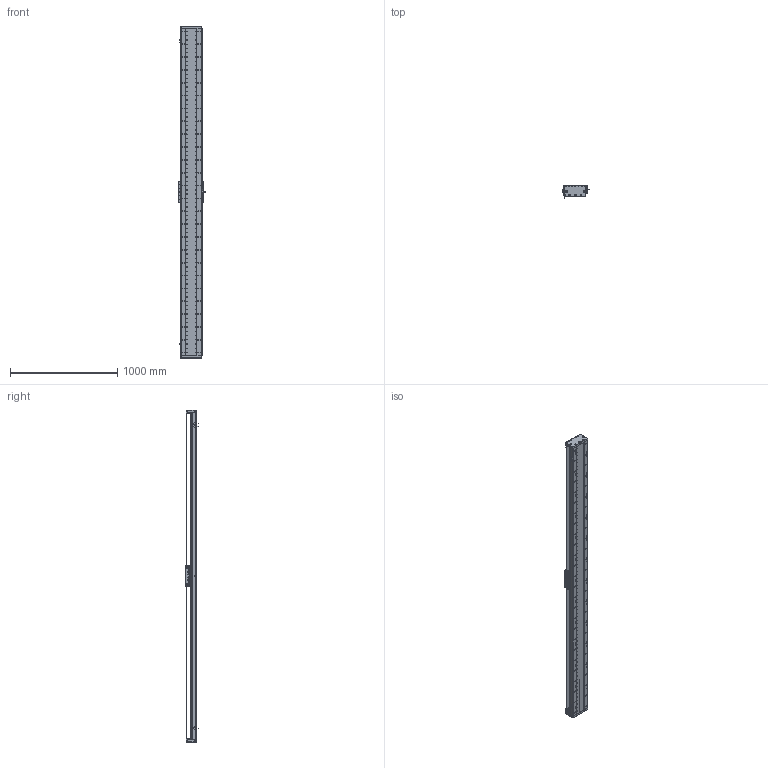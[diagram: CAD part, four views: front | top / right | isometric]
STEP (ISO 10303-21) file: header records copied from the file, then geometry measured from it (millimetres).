
FILE_DESCRIPTION (( 'STEP AP203' ), '1' );
FILE_NAME ('DA-C195-C2-T2820-C010-0.2 眻盄萇儂.STEP', '2025-08-15T01:15:15', ( '' ), ( '' ), 'SwSTEP 2.0', 'SolidWorks 2019', '' );
FILE_SCHEMA (( 'CONFIG_CONTROL_DESIGN' ));
Length unit declared in the file: millimetre
Products named in the file (15): LMT黍杅芛; DA-C195-GD-DB-H-00 傷啣; IU-CU195-L-00 菁釱(L3060); DA195詩湍菜輸; IU-CU195-L 菁釱絳寢; DA-C195-C2-T2820-C010-0.2 眻盄萇儂; DA195詩湍裔啣; MS200 棠掑喜S315-T1740; DA165-GYP-00 光电感应片(默认); DA195詩湍嶺輸; PM-T45ㄗ侂狟ㄘ; DA95-HXJ-00 遣喳砎蝶; CU195-C2賑輸-俋楷; DA195詩湍郪璃; 葩璃 DA95-GT-T-00
Assembly tree (29 placements, depth 3):
  DA-C195-C2-T2820-C010-0.2 眻盄萇儂
    DA195詩湍郪璃
      DA195詩湍菜輸  x2
      DA195詩湍裔啣
      DA195詩湍嶺輸  x2
      DA95-HXJ-00 遣喳砎蝶  x8
      DA-C195-GD-DB-H-00 傷啣  x2
    IU-CU195-L 菁釱絳寢
      IU-CU195-L-00 菁釱(L3060)
      葩璃 DA95-GT-T-00  x4
    LMT黍杅芛
    MS200 棠掑喜S315-T1740
    PM-T45ㄗ侂狟ㄘ  x3
    DA165-GYP-00 光电感应片(默认)
    CU195-C2賑輸-俋楷
Bounding box: 248 x 115.45 x 3100 mm (x, y, z)
Volume: 17462316.7 mm3; surface area: 5197691.8 mm2
Topology: 66 solids, 130 shells, 4594 faces, 13051 edges, 8247 vertices
Faces by surface type: cylinder 2567, plane 1409, cone 530, torus 52, sphere 36
Entity records: 151309 total; most frequent: CARTESIAN_POINT 42434, ORIENTED_EDGE 22986, DIRECTION 21776, EDGE_CURVE 11493, AXIS2_PLACEMENT_3D 8193, VERTEX_POINT 7449, LINE 5390, VECTOR 5390
